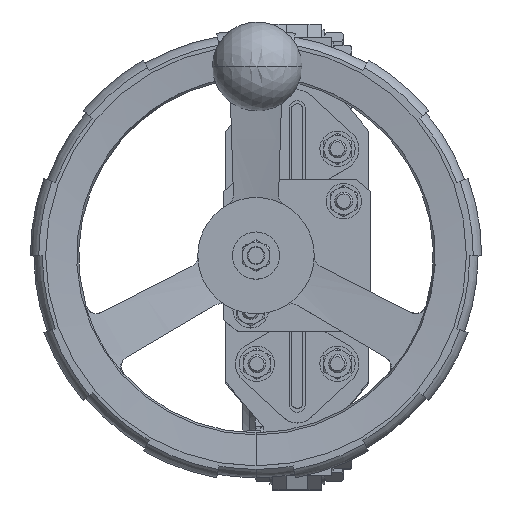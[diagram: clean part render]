
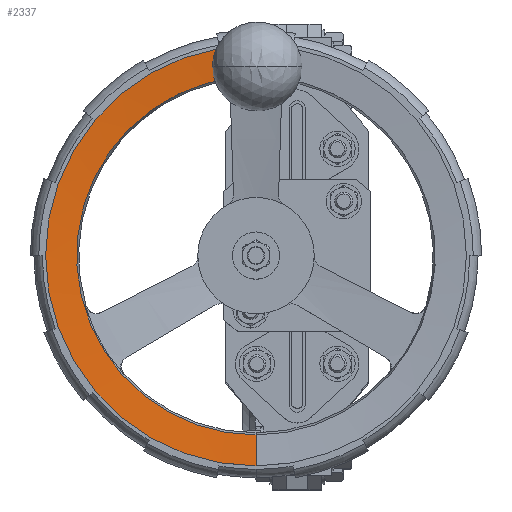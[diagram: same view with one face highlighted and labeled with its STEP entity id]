
A CAD part, top view. The second image highlights one B-rep face of the part: STEP entity #2337.
In plain terms, the highlighted conical face has half-angle 85 degrees and reference radius 117.5 mm.
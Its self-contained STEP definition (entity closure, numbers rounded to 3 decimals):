
#2337=ADVANCED_FACE('',(#7195),#7196,.F.);
#7195=FACE_OUTER_BOUND('',#13831,.T.);
#7196=CONICAL_SURFACE('',#13832,117.5,1.484);
#13831=EDGE_LOOP('',(#31643,#31644,#31645,#31646,#31647,#31648,#31649));
#13832=AXIS2_PLACEMENT_3D('',#31650,#31651,#31652);
#31643=ORIENTED_EDGE('',*,*,#32531,.T.);
#31644=ORIENTED_EDGE('',*,*,#32422,.T.);
#31645=ORIENTED_EDGE('',*,*,#37783,.T.);
#31646=ORIENTED_EDGE('',*,*,#37667,.T.);
#31647=ORIENTED_EDGE('',*,*,#37737,.F.);
#31648=ORIENTED_EDGE('',*,*,#32533,.T.);
#31649=ORIENTED_EDGE('',*,*,#36512,.F.);
#31650=CARTESIAN_POINT('',(-23.,0.,471.019));
#31651=DIRECTION('',(0.,0.,1.));
#31652=DIRECTION('',(0.,-1.,0.));
#32422=EDGE_CURVE('',#38902,#38900,#38903,.T.);
#32531=EDGE_CURVE('',#39117,#38902,#39118,.T.);
#32533=EDGE_CURVE('',#39121,#39119,#39122,.T.);
#36512=EDGE_CURVE('',#39117,#39119,#45983,.T.);
#37667=EDGE_CURVE('',#47462,#47463,#47464,.T.);
#37737=EDGE_CURVE('',#39121,#47463,#47546,.T.);
#37783=EDGE_CURVE('',#38900,#47462,#47600,.T.);
#38900=VERTEX_POINT('',#48056);
#38902=VERTEX_POINT('',#48061);
#38903=CIRCLE('',#48062,100.133);
#39117=VERTEX_POINT('',#48469);
#39118=LINE('',#48470,#48471);
#39119=VERTEX_POINT('',#48472);
#39121=VERTEX_POINT('',#48474);
#39122=LINE('',#48475,#48476);
#45983=CIRCLE('',#62556,117.5);
#47462=VERTEX_POINT('',#65936);
#47463=VERTEX_POINT('',#65937);
#47464=B_SPLINE_CURVE_WITH_KNOTS('',3,(#65938,#65939,#65940,#65941,#65942,#65943,#65944),.UNSPECIFIED.,.F.,.F.,(4,3,4),(0.021,0.023,0.033),.UNSPECIFIED.);
#47546=CIRCLE('',#66140,117.278);
#47600=B_SPLINE_CURVE_WITH_KNOTS('',3,(#66241,#66242,#66243,#66244,#66245,#66246),.UNSPECIFIED.,.F.,.F.,(4,2,4),(0.001,0.004,0.007),.UNSPECIFIED.);
#48056=CARTESIAN_POINT('',(-34.226,99.502,469.5));
#48061=CARTESIAN_POINT('',(-23.,-100.133,469.5));
#48062=AXIS2_PLACEMENT_3D('',#66985,#66986,#66987);
#48469=CARTESIAN_POINT('',(-23.,-117.5,471.019));
#48470=CARTESIAN_POINT('',(-23.,-117.5,471.019));
#48471=VECTOR('',#67207,1.);
#48472=CARTESIAN_POINT('',(-23.,117.5,471.019));
#48474=CARTESIAN_POINT('',(-23.,117.278,471.));
#48475=CARTESIAN_POINT('',(-23.,117.5,471.019));
#48476=VECTOR('',#67211,1.);
#62556=AXIS2_PLACEMENT_3D('',#73698,#73699,#73700);
#65936=CARTESIAN_POINT('',(-35.5,105.,469.991));
#65937=CARTESIAN_POINT('',(-35.5,116.61,471.));
#65938=CARTESIAN_POINT('',(-35.5,105.,469.991));
#65939=CARTESIAN_POINT('',(-35.5,105.524,470.036));
#65940=CARTESIAN_POINT('',(-35.5,106.049,470.082));
#65941=CARTESIAN_POINT('',(-35.5,106.573,470.127));
#65942=CARTESIAN_POINT('',(-35.5,109.919,470.418));
#65943=CARTESIAN_POINT('',(-35.5,113.264,470.709));
#65944=CARTESIAN_POINT('',(-35.5,116.61,471.));
#66140=AXIS2_PLACEMENT_3D('',#75629,#75630,#75631);
#66241=CARTESIAN_POINT('',(-34.226,99.502,469.5));
#66242=CARTESIAN_POINT('',(-34.643,100.353,469.578));
#66243=CARTESIAN_POINT('',(-34.961,101.244,469.659));
#66244=CARTESIAN_POINT('',(-35.393,103.111,469.825));
#66245=CARTESIAN_POINT('',(-35.5,104.053,469.908));
#66246=CARTESIAN_POINT('',(-35.5,105.,469.991));
#66985=CARTESIAN_POINT('',(-23.,0.,469.5));
#66986=DIRECTION('',(0.,0.,-1.));
#66987=DIRECTION('',(0.,1.,0.));
#67207=DIRECTION('',(0.,0.996,-0.087));
#67211=DIRECTION('',(0.,0.996,0.087));
#73698=CARTESIAN_POINT('',(-23.,0.,471.019));
#73699=DIRECTION('',(0.,0.,-1.));
#73700=DIRECTION('',(0.,1.,0.));
#75629=CARTESIAN_POINT('',(-23.,0.,471.));
#75630=DIRECTION('',(0.,0.,1.));
#75631=DIRECTION('',(1.,0.,0.));
